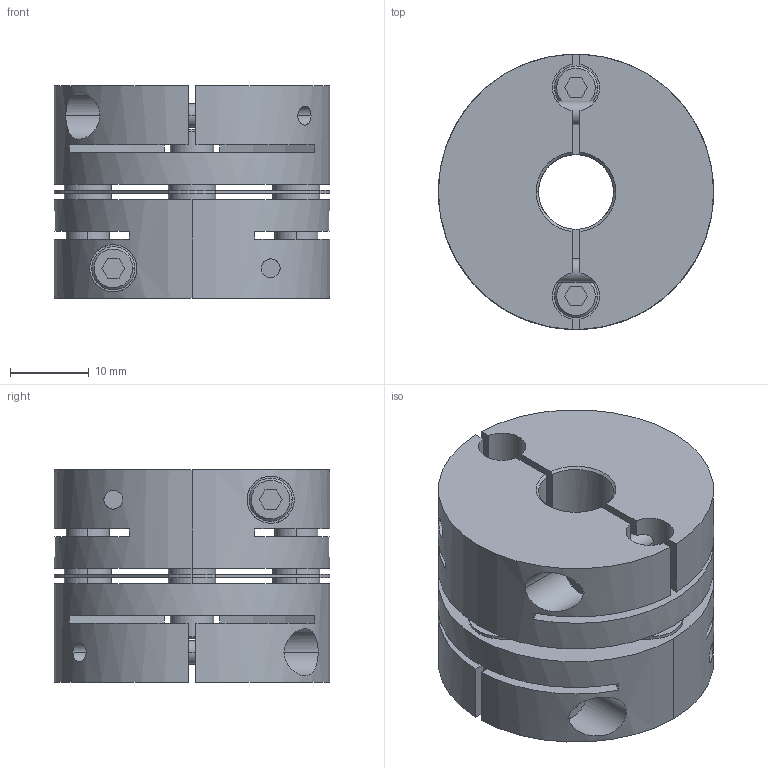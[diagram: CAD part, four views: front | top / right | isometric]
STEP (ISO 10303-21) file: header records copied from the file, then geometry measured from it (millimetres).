
FILE_DESCRIPTION((''),'2;1');
FILE_NAME('LAS-35C-9.525×9.525.stp','2015-10-14T15:27:55',(''),(''),'AutoCAD STEP 2000i','AutoCAD 2000i',', , ');
FILE_SCHEMA(('CONFIG_CONTROL_DESIGN'));
Length unit declared in the file: millimetre
Products named in the file (5): LAS-35C-8×8; 忣兜1; LA-3502-D08-1; LA-3502-D08; LAS35-ITA
Assembly tree (4 placements, depth 2):
  LAS-35C-8×8
    忣兜1
    LA-3502-D08-1
    LA-3502-D08
    LAS35-ITA
Bounding box: 35 x 35 x 27 mm (x, y, z)
Volume: 19975.5 mm3; surface area: 12125.4 mm2
Topology: 1 solids, 1 shells, 236 faces, 624 edges, 408 vertices
Faces by surface type: plane 112, cylinder 96, cone 28
Entity records: 8143 total; most frequent: CARTESIAN_POINT 1949, DIRECTION 1302, ORIENTED_EDGE 1248, EDGE_CURVE 624, AXIS2_PLACEMENT_3D 477, VERTEX_POINT 408, VECTOR 348, LINE 348
